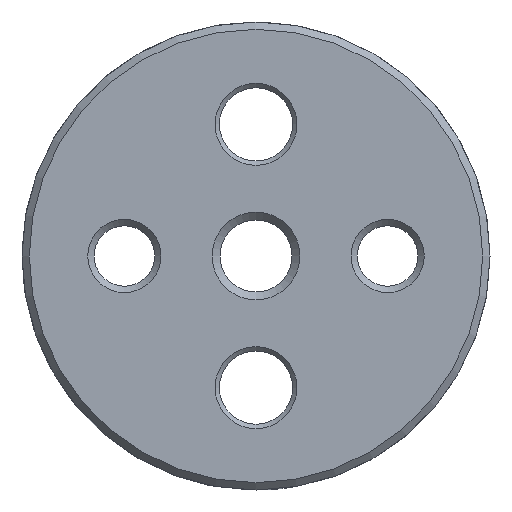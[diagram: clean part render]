
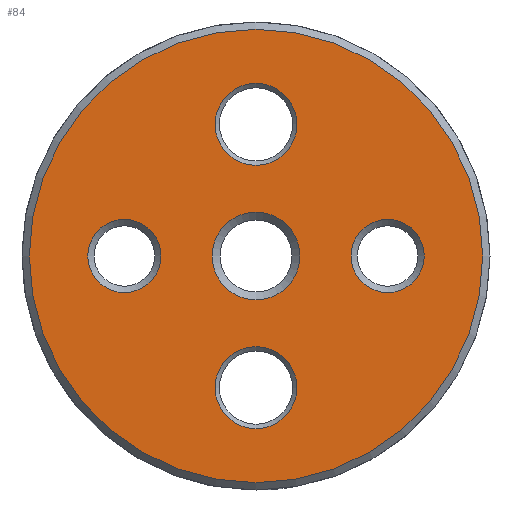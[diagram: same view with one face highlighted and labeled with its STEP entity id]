
A CAD part, front view. The second image highlights one B-rep face of the part: STEP entity #84.
In plain terms, the highlighted planar face has unit normal (0, -1, 0).
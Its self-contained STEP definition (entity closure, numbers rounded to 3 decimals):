
#84 = ADVANCED_FACE( '', ( #133, #134, #135, #136, #137, #138 ), #139, .F. );
#133 = FACE_BOUND( '', #223, .T. );
#134 = FACE_BOUND( '', #224, .T. );
#135 = FACE_BOUND( '', #225, .T. );
#136 = FACE_BOUND( '', #226, .T. );
#137 = FACE_BOUND( '', #227, .T. );
#138 = FACE_OUTER_BOUND( '', #228, .T. );
#139 = PLANE( '', #229 );
#223 = EDGE_LOOP( '', ( #362 ) );
#224 = EDGE_LOOP( '', ( #363 ) );
#225 = EDGE_LOOP( '', ( #364 ) );
#226 = EDGE_LOOP( '', ( #365 ) );
#227 = EDGE_LOOP( '', ( #366 ) );
#228 = EDGE_LOOP( '', ( #367 ) );
#229 = AXIS2_PLACEMENT_3D( '', #368, #369, #370 );
#362 = ORIENTED_EDGE( '', *, *, #528, .F. );
#363 = ORIENTED_EDGE( '', *, *, #529, .F. );
#364 = ORIENTED_EDGE( '', *, *, #530, .F. );
#365 = ORIENTED_EDGE( '', *, *, #531, .F. );
#366 = ORIENTED_EDGE( '', *, *, #532, .F. );
#367 = ORIENTED_EDGE( '', *, *, #527, .T. );
#368 = CARTESIAN_POINT( '', ( 15.5, 0., 0. ) );
#369 = DIRECTION( '', ( 0., 1., 0. ) );
#370 = DIRECTION( '', ( 0., 0., 1. ) );
#527 = EDGE_CURVE( '', #611, #611, #612, .T. );
#528 = EDGE_CURVE( '', #613, #613, #614, .T. );
#529 = EDGE_CURVE( '', #615, #615, #616, .F. );
#530 = EDGE_CURVE( '', #617, #617, #618, .T. );
#531 = EDGE_CURVE( '', #619, #619, #620, .T. );
#532 = EDGE_CURVE( '', #621, #621, #622, .T. );
#611 = VERTEX_POINT( '', #818 );
#612 = CIRCLE( '', #819, 15.5 );
#613 = VERTEX_POINT( '', #820 );
#614 = CIRCLE( '', #821, 3. );
#615 = VERTEX_POINT( '', #822 );
#616 = CIRCLE( '', #823, 2.5 );
#617 = VERTEX_POINT( '', #824 );
#618 = CIRCLE( '', #825, 2.8 );
#619 = VERTEX_POINT( '', #826 );
#620 = CIRCLE( '', #827, 2.8 );
#621 = VERTEX_POINT( '', #828 );
#622 = CIRCLE( '', #829, 2.5 );
#818 = CARTESIAN_POINT( '', ( 0., 0., -15.5 ) );
#819 = AXIS2_PLACEMENT_3D( '', #931, #932, #933 );
#820 = CARTESIAN_POINT( '', ( 0., 0., -3. ) );
#821 = AXIS2_PLACEMENT_3D( '', #934, #935, #936 );
#822 = CARTESIAN_POINT( '', ( 9., 0., 2.5 ) );
#823 = AXIS2_PLACEMENT_3D( '', #937, #938, #939 );
#824 = CARTESIAN_POINT( '', ( 0., 0., 6.2 ) );
#825 = AXIS2_PLACEMENT_3D( '', #940, #941, #942 );
#826 = CARTESIAN_POINT( '', ( 0., 0., -11.8 ) );
#827 = AXIS2_PLACEMENT_3D( '', #943, #944, #945 );
#828 = CARTESIAN_POINT( '', ( -9., 0., -2.5 ) );
#829 = AXIS2_PLACEMENT_3D( '', #946, #947, #948 );
#931 = CARTESIAN_POINT( '', ( 0., 0., 0. ) );
#932 = DIRECTION( '', ( 0., -1., 0. ) );
#933 = DIRECTION( '', ( 0., 0., -1. ) );
#934 = CARTESIAN_POINT( '', ( 0., 0., 0. ) );
#935 = DIRECTION( '', ( 0., -1., 0. ) );
#936 = DIRECTION( '', ( 0., 0., -1. ) );
#937 = CARTESIAN_POINT( '', ( 9., 0., 0. ) );
#938 = DIRECTION( '', ( 0., 1., 0. ) );
#939 = DIRECTION( '', ( 0., 0., 1. ) );
#940 = CARTESIAN_POINT( '', ( 0., 0., 9. ) );
#941 = DIRECTION( '', ( 0., -1., 0. ) );
#942 = DIRECTION( '', ( 0., 0., -1. ) );
#943 = CARTESIAN_POINT( '', ( 0., 0., -9. ) );
#944 = DIRECTION( '', ( 0., -1., 0. ) );
#945 = DIRECTION( '', ( 0., 0., -1. ) );
#946 = CARTESIAN_POINT( '', ( -9., 0., 0. ) );
#947 = DIRECTION( '', ( 0., -1., 0. ) );
#948 = DIRECTION( '', ( 0., 0., -1. ) );
